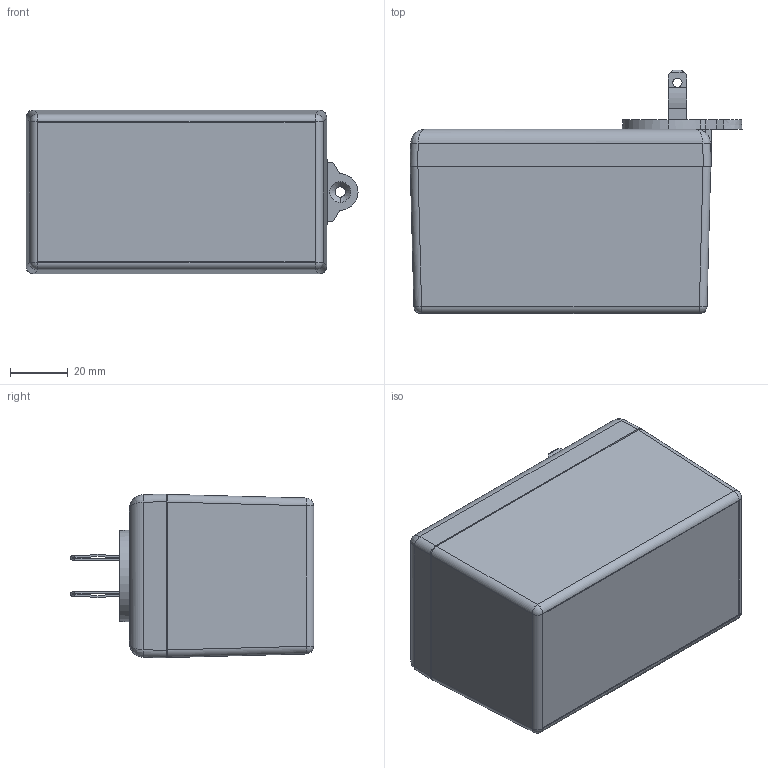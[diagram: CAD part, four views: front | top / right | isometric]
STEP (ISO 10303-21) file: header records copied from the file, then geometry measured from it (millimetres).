
FILE_DESCRIPTION (( 'STEP AP214' ), '1' );
FILE_NAME ('PM2425R02XWT.STEP', '2010-07-15T14:15:38', ( '' ), ( '' ), 'SwSTEP 2.0', 'SolidWorks 2010', '' );
FILE_SCHEMA (( 'AUTOMOTIVE_DESIGN' ));
Length unit declared in the file: inch
Products named in the file (8): TS-2420B AND PM2420_TS-2420BP-R; B2405 ASS''Y_B24052XWT; MPB2405_MPB24052WT; BLADES; WELD DISC-PS-BK; SCREWS-HL1-BR; B2405-PCB; PM2425R02XWT
Assembly tree (11 placements, depth 3):
  PM2425R02XWT
    SCREWS-HL1-BR  x4
    B2405-PCB
    TS-2420B AND PM2420_TS-2420BP-R
    B2405 ASS''Y_B24052XWT
      MPB2405_MPB24052WT
      BLADES  x2
      WELD DISC-PS-BK
Bounding box: 115.34 x 84.55 x 56.95 mm (x, y, z)
Volume: 88516 mm3; surface area: 82450.9 mm2
Topology: 10 solids, 10 shells, 883 faces, 2462 edges, 1606 vertices
Faces by surface type: cylinder 488, plane 269, cone 82, bspline 28, sphere 12, torus 4
Entity records: 18329 total; most frequent: CARTESIAN_POINT 6123, ORIENTED_EDGE 2638, DIRECTION 2353, EDGE_CURVE 1319, VERTEX_POINT 856, AXIS2_PLACEMENT_3D 833, VECTOR 687, LINE 687
